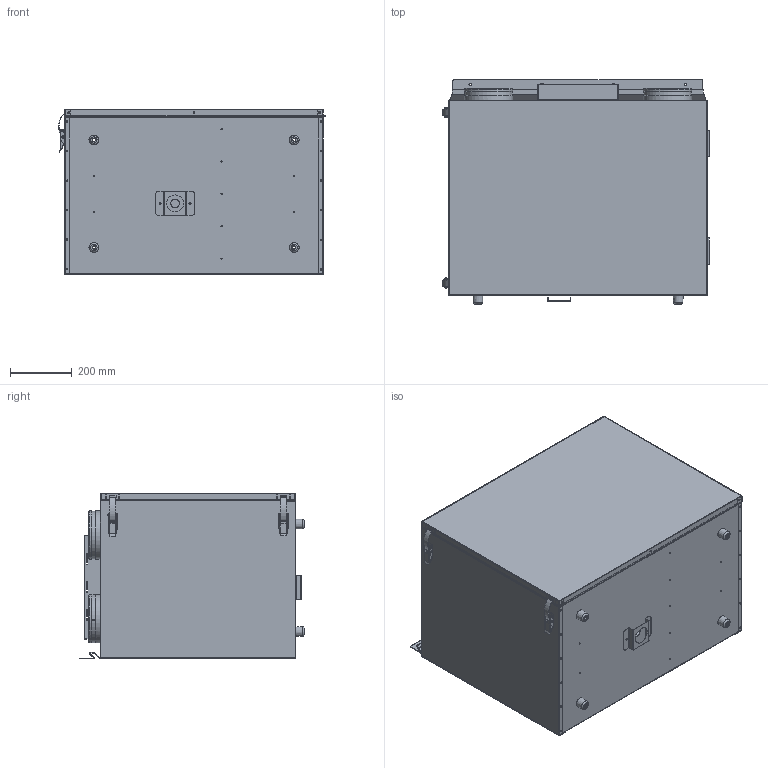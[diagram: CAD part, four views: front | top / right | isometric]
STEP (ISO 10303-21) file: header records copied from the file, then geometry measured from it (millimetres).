
FILE_DESCRIPTION(/* description */ ('Unknown'),/* implementation_level */ '2;1');
FILE_NAME(/* name */ '340V',/* time_stamp */ '2025-11-27T12:20:16+01:00',/* author */ ('Unknown'),/* organization */ ('Unknown'),/* preprocessor_version */ 'ST-DEVELOPER v16.7',/* originating_system */ 'DEX',/* authorisation */ $);
FILE_SCHEMA (('AUTOMOTIVE_DESIGN {1 0 10303 214 3 1 1}'));
Length unit declared in the file: millimetre
Products named in the file (14): 400 V; stopka; Pokrywka sterowania 8; drzwi zew V; tyl dol skos; drzwi wewn V_H; wieszak; moc reku sciana nowy; moc reku ty³ nowy; obudowa V; Burta; Uchwyt syfonu_2stronny; zawias duzy; Kolnierz 160_pk
Assembly tree (21 placements, depth 3):
  400 V
    stopka  x4
    Pokrywka sterowania 8
    drzwi zew V
    tyl dol skos
    drzwi wewn V_H
    wieszak
      moc reku sciana nowy
      moc reku ty³ nowy
    obudowa V
    Burta  x2
    Uchwyt syfonu_2stronny
    zawias duzy  x2
    Kolnierz 160_pk  x4
Bounding box: 865.96 x 727.13 x 538.5 mm (x, y, z)
Volume: 3716655.9 mm3; surface area: 7550034.9 mm2
Topology: 28 solids, 28 shells, 1419 faces, 3848 edges, 2513 vertices
Faces by surface type: plane 712, cylinder 507, bspline 144, torus 40, cone 16
Full cylindrical faces by diameter (mm): 3.5 x4, 3.7 x9, 4 x4, 4.1 x12, 4.2 x2, 4.5 x17, 4.6 x12, 4.7 x66, 5 x28, 5.3 x4, 6 x2, 6.5 x5, 7.4 x14, 8.5 x4, 9 x4, 10 x4, 13 x2, 28 x1, 55 x1, 150.986 x4, 154.557 x4, 157 x8, 160 x4, 185 x4
Entity records: 29398 total; most frequent: CARTESIAN_POINT 5914, DIRECTION 4656, ORIENTED_EDGE 4522, EDGE_CURVE 2261, AXIS2_PLACEMENT_3D 1646, VERTEX_POINT 1553, EDGE_LOOP 1488, FACE_BOUND 1488
